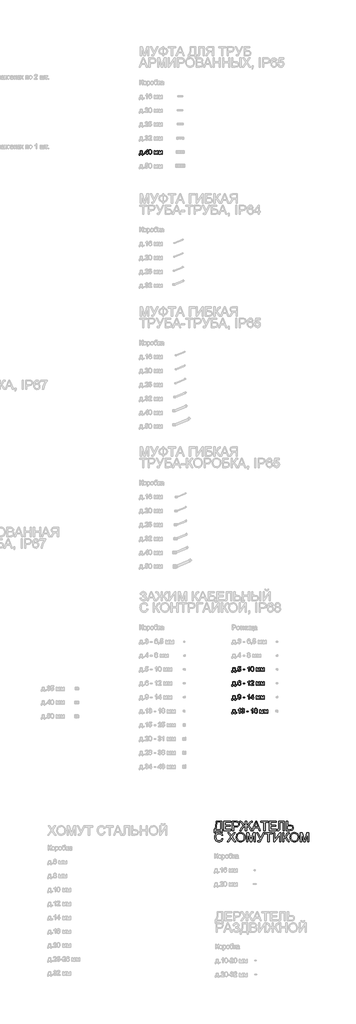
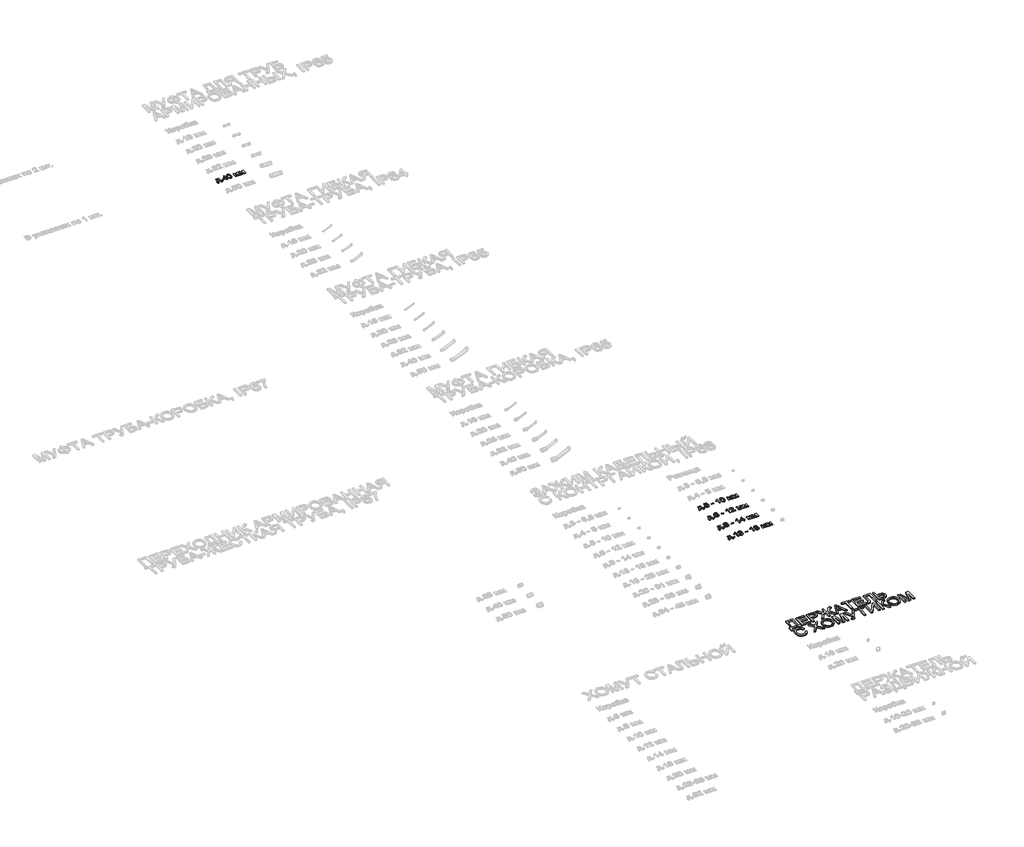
# One storey, part 79 of 98: 6 proxies.
"""IFC4 building model written with IfcOpenShell, lengths in millimetres."""

from ifc_helpers import new_model, si_unit, origin, origin_with_axes, place, context, project, spatial, polyline, outline, extrude, element, save

model = new_model("IFC4")

# Units and contexts
model_context = context("Model", 3, world=origin())
ifc_project = project(units=[si_unit("LENGTHUNIT", "METRE", prefix="MILLI")], contexts=[model_context])

# Site, building, storey
site = spatial("IfcSite", under=ifc_project)
building = spatial("IfcBuilding", under=site)
storey = spatial("IfcBuildingStorey", under=building, Name="Этаж 01", Elevation=0.0)

# Proxies
placement = place(None, origin())
element("IfcBuildingElementProxy", 1, Name="100", ObjectType="100", at=placement, inside=storey, context=model_context, shape_type="SweptSolid", body=[
    extrude(outline(polyline([(14428.905254, -16885.7395637), (14475.9941494, -16885.7395637), (14475.9941494, -16946.9551277), (14485.4119285, -16946.9551277), (14485.4119285, -16979.9173545), (14472.8548897, -16979.9173545), (14472.8548897, -16959.5121665), (14421.0571048, -16959.5121665), (14421.0571048, -16979.9173545), (14408.500066, -16979.9173545), (14408.500066, -16946.9551277), (14416.3482152, -16946.9551277), (14426.0480372, -16923.0060098), (14428.905254, -16885.7395637)]), holes=[polyline([(14439.8926629, -16898.2966025), (14436.949607, -16926.905559), (14430.4748839, -16946.9551277), (14463.4371106, -16946.9551277), (14463.4371106, -16898.2966025), (14439.8926629, -16898.2966025)])]), origin_with_axes(), (0.0, 0.0, 1.0), 10.0),
    extrude(outline(polyline([(14502.6778568, -16959.5121665), (14502.6778568, -16946.9551277), (14515.2348955, -16946.9551277), (14515.2348955, -16959.5121665), (14502.6778568, -16959.5121665)])), origin_with_axes(), (0.0, 0.0, 1.0), 10.0),
    extrude(outline(polyline([(14576.4504595, -16959.5121665), (14576.4504595, -16935.9677188), (14530.931194, -16935.9677188), (14530.931194, -16923.41068), (14579.5897192, -16860.6254862), (14589.0074983, -16860.6254862), (14589.0074983, -16923.41068), (14601.5645371, -16923.41068), (14601.5645371, -16935.9677188), (14589.0074983, -16935.9677188), (14589.0074983, -16959.5121665), (14576.4504595, -16959.5121665)]), holes=[polyline([(14576.4504595, -16923.41068), (14576.4504595, -16884.6113922), (14546.3822378, -16923.41068), (14576.4504595, -16923.41068)])]), origin_with_axes(), (0.0, 0.0, 1.0), 10.0),
    extrude(outline(polyline([(14612.551946, -16910.0933518), (14616.2430287, -16881.1900897), (14627.2059121, -16864.5250353), (14645.5141728, -16859.0558563), (14660.1804016, -16862.2932179), (14670.3094192, -16871.6251578), (14676.1955312, -16886.4875904), (14678.4763995, -16910.0933518), (14674.8221051, -16938.8739865), (14663.8960098, -16955.5758291), (14655.6646502, -16959.7053045), (14645.5141728, -16961.0817963), (14632.4666247, -16958.6905633), (14622.5583363, -16951.5168644), (14615.0535436, -16934.5268476), (14612.551946, -16910.0933518)]), holes=[polyline([(14625.1089848, -16910.0688263), (14626.5805128, -16929.8210238), (14630.9950967, -16941.2529568), (14637.5679217, -16946.7068073), (14645.5141728, -16948.5247575), (14653.4604239, -16946.700676), (14660.0332488, -16941.2284313), (14664.4478328, -16929.7903669), (14665.9193608, -16910.0688263), (14664.4968837, -16890.7611529), (14660.2294526, -16879.2403151), (14653.6688903, -16873.5197501), (14645.36702, -16871.6128951), (14637.506608, -16873.2928895), (14631.1913004, -16878.3328729), (14626.6295637, -16890.5710806), (14625.1089848, -16910.0688263)])]), origin_with_axes(), (0.0, 0.0, 1.0), 10.0),
    extrude(outline(polyline([(14731.8438143, -16885.7395637), (14753.4507502, -16885.7395637), (14770.1035418, -16944.7968867), (14788.0561832, -16885.7395637), (14808.7556768, -16885.7395637), (14808.7556768, -16959.5121665), (14796.198638, -16959.5121665), (14796.198638, -16900.111487), (14778.1478948, -16959.5121665), (14761.6667814, -16959.5121665), (14744.4008531, -16897.2665329), (14744.4008531, -16959.5121665), (14731.8438143, -16959.5121665), (14731.8438143, -16885.7395637)])), origin_with_axes(), (0.0, 0.0, 1.0), 10.0),
    extrude(outline(polyline([(14827.5912349, -16885.7395637), (14849.1981708, -16885.7395637), (14865.8509624, -16944.7968867), (14883.8036038, -16885.7395637), (14904.5030974, -16885.7395637), (14904.5030974, -16959.5121665), (14891.9460586, -16959.5121665), (14891.9460586, -16900.111487), (14873.8953154, -16959.5121665), (14857.414202, -16959.5121665), (14840.1482737, -16897.2665329), (14840.1482737, -16959.5121665), (14827.5912349, -16959.5121665), (14827.5912349, -16885.7395637)])), origin_with_axes(), (0.0, 0.0, 1.0), 10.0),
])
element("IfcBuildingElementProxy", 2, Name="100", ObjectType="100", at=placement, inside=storey, context=model_context, shape_type="SweptSolid", body=[
    extrude(outline(polyline([(16431.7338321, -28049.6891994), (16478.8227275, -28049.6891994), (16478.8227275, -28110.9047634), (16488.2405066, -28110.9047634), (16488.2405066, -28143.8669901), (16475.6834678, -28143.8669901), (16475.6834678, -28123.4618021), (16423.8856829, -28123.4618021), (16423.8856829, -28143.8669901), (16411.3286441, -28143.8669901), (16411.3286441, -28110.9047634), (16419.1767934, -28110.9047634), (16428.8766153, -28086.9556455), (16431.7338321, -28049.6891994)]), holes=[polyline([(16442.721241, -28062.2462382), (16439.7781851, -28090.8551946), (16433.303462, -28110.9047634), (16466.2656887, -28110.9047634), (16466.2656887, -28062.2462382), (16442.721241, -28062.2462382)])]), origin_with_axes(), (0.0, 0.0, 1.0), 10.0),
    extrude(outline(polyline([(16505.5064349, -28123.4618021), (16505.5064349, -28110.9047634), (16518.0634737, -28110.9047634), (16518.0634737, -28123.4618021), (16505.5064349, -28123.4618021)])), origin_with_axes(), (0.0, 0.0, 1.0), 10.0),
    extrude(outline(polyline([(16538.4686617, -28096.7780948), (16551.0257004, -28095.2084649), (16557.3532707, -28108.1456484), (16570.4743952, -28112.4743932), (16579.4752414, -28110.9691427), (16586.2197446, -28106.4533912), (16590.4319935, -28099.4483049), (16591.8360764, -28090.4750499), (16586.5753639, -28075.5635664), (16579.9688164, -28071.4616821), (16570.670599, -28070.0943874), (16559.6464018, -28072.2771539), (16552.5953303, -28077.9425366), (16540.0382915, -28076.3729068), (16551.0257004, -28024.5751218), (16599.6842257, -28024.5751218), (16599.6842257, -28037.1321606), (16561.1792435, -28037.1321606), (16555.8081664, -28064.7968867), (16564.7783557, -28059.3522331), (16574.1777407, -28057.5373486), (16585.9101106, -28059.7875602), (16595.6497864, -28066.5381948), (16602.207283, -28076.8266279), (16604.3931152, -28089.690235), (16602.4249465, -28102.2472738), (16596.5204405, -28112.989428), (16585.2142005, -28122.020931), (16570.4253443, -28125.031432), (16558.0921004, -28123.0969858), (16548.2665855, -28117.2936474), (16541.5312793, -28108.2958669), (16538.4686617, -28096.7780948)])), origin_with_axes(), (0.0, 0.0, 1.0), 10.0),
    extrude(outline(polyline([(16651.4820106, -28093.6388351), (16651.4820106, -28081.0817963), (16690.7227567, -28081.0817963), (16690.7227567, -28093.6388351), (16651.4820106, -28093.6388351)])), origin_with_axes(), (0.0, 0.0, 1.0), 10.0),
    extrude(outline(polyline([(16788.0398072, -28123.4618021), (16775.4827684, -28123.4618021), (16775.4827684, -28045.1765136), (16763.5879172, -28053.6500622), (16750.3686909, -28059.9898952), (16750.3686909, -28048.1195695), (16768.7750534, -28036.3718712), (16779.9464033, -28023.005492), (16788.0398072, -28023.005492), (16788.0398072, -28123.4618021)])), origin_with_axes(), (0.0, 0.0, 1.0), 10.0),
    extrude(outline(polyline([(16817.8627743, -28074.0429875), (16821.5538569, -28045.1397254), (16832.5167404, -28028.474671), (16850.825001, -28023.005492), (16865.4912299, -28026.2428536), (16875.6202475, -28035.5747935), (16881.5063594, -28050.4372261), (16883.7872278, -28074.0429875), (16880.1329333, -28102.8236222), (16869.2068381, -28119.5254648), (16860.9754784, -28123.6549402), (16850.825001, -28125.031432), (16837.7774529, -28122.640199), (16827.8691645, -28115.4665001), (16820.3643718, -28098.4764833), (16817.8627743, -28074.0429875)]), holes=[polyline([(16830.419813, -28074.018462), (16831.891341, -28093.7706595), (16836.305925, -28105.2025925), (16842.8787499, -28110.656443), (16850.825001, -28112.4743932), (16858.7712521, -28110.6503117), (16865.3440771, -28105.178067), (16869.758661, -28093.7400026), (16871.230189, -28074.018462), (16869.807712, -28054.7107886), (16865.5402808, -28043.1899508), (16858.9797186, -28037.4693858), (16850.6778482, -28035.5625308), (16842.8174363, -28037.2425252), (16836.5021287, -28042.2825085), (16831.9403919, -28054.5207163), (16830.419813, -28074.018462)])]), origin_with_axes(), (0.0, 0.0, 1.0), 10.0),
    extrude(outline(polyline([(16937.1546426, -28049.6891994), (16958.7615784, -28049.6891994), (16975.4143701, -28108.7465223), (16993.3670114, -28049.6891994), (17014.066505, -28049.6891994), (17014.066505, -28123.4618021), (17001.5094663, -28123.4618021), (17001.5094663, -28064.0611227), (16983.458723, -28123.4618021), (16966.9776096, -28123.4618021), (16949.7116813, -28061.2161686), (16949.7116813, -28123.4618021), (16937.1546426, -28123.4618021), (16937.1546426, -28049.6891994)])), origin_with_axes(), (0.0, 0.0, 1.0), 10.0),
    extrude(outline(polyline([(17032.9020632, -28049.6891994), (17054.508999, -28049.6891994), (17071.1617907, -28108.7465223), (17089.114432, -28049.6891994), (17109.8139256, -28049.6891994), (17109.8139256, -28123.4618021), (17097.2568869, -28123.4618021), (17097.2568869, -28064.0611227), (17079.2061436, -28123.4618021), (17062.7250303, -28123.4618021), (17045.4591019, -28061.2161686), (17045.4591019, -28123.4618021), (17032.9020632, -28123.4618021), (17032.9020632, -28049.6891994)])), origin_with_axes(), (0.0, 0.0, 1.0), 10.0),
])
element("IfcBuildingElementProxy", 3, Name="100", ObjectType="100", at=placement, inside=storey, context=model_context, shape_type="SweptSolid", body=[
    extrude(outline(polyline([(16431.7338321, -28649.6891994), (16478.8227275, -28649.6891994), (16478.8227275, -28710.9047634), (16488.2405066, -28710.9047634), (16488.2405066, -28743.8669901), (16475.6834678, -28743.8669901), (16475.6834678, -28723.4618021), (16423.8856829, -28723.4618021), (16423.8856829, -28743.8669901), (16411.3286441, -28743.8669901), (16411.3286441, -28710.9047634), (16419.1767934, -28710.9047634), (16428.8766153, -28686.9556455), (16431.7338321, -28649.6891994)]), holes=[polyline([(16442.721241, -28662.2462382), (16439.7781851, -28690.8551946), (16433.303462, -28710.9047634), (16466.2656887, -28710.9047634), (16466.2656887, -28662.2462382), (16442.721241, -28662.2462382)])]), origin_with_axes(), (0.0, 0.0, 1.0), 10.0),
    extrude(outline(polyline([(16505.5064349, -28723.4618021), (16505.5064349, -28710.9047634), (16518.0634737, -28710.9047634), (16518.0634737, -28723.4618021), (16505.5064349, -28723.4618021)])), origin_with_axes(), (0.0, 0.0, 1.0), 10.0),
    extrude(outline(polyline([(16540.0382915, -28698.3477246), (16552.5953303, -28696.7780948), (16558.2361875, -28708.7587851), (16568.9292909, -28712.4743932), (16579.0950967, -28710.0831603), (16585.9867527, -28703.6942763), (16590.0947683, -28692.7804438), (16591.9096528, -28678.2123167), (16591.8360764, -28675.7597701), (16581.792898, -28685.275651), (16568.0218486, -28688.9299455), (16556.5715215, -28686.6981281), (16547.0403121, -28680.0026758), (16540.6115743, -28669.6590604), (16538.4686617, -28656.4827536), (16540.7158075, -28642.8711197), (16547.4572451, -28632.2025419), (16557.583197, -28625.3047545), (16569.9838859, -28623.005492), (16587.8752136, -28628.2539418), (16600.1869977, -28643.2144763), (16604.3931152, -28671.3206607), (16600.1992604, -28701.8180781), (16594.9845332, -28711.80914), (16587.7280608, -28719.0962691), (16578.7425431, -28723.5476413), (16568.3406797, -28725.031432), (16557.6046568, -28723.2809268), (16549.0391377, -28718.0294114), (16543.0487925, -28709.6079793), (16540.0382915, -28698.3477246)]), holes=[polyline([(16591.8360764, -28656.188448), (16590.4810444, -28647.6781111), (16586.4159484, -28641.1298116), (16580.1067721, -28636.954351), (16572.0194996, -28635.5625308), (16563.6317901, -28637.0616499), (16556.9118123, -28641.5590073), (16552.4972284, -28648.4414663), (16551.0257004, -28657.0958902), (16552.4175206, -28664.8551346), (16556.5929813, -28671.0140924), (16563.1474122, -28675.0332032), (16571.6761431, -28676.3729068), (16586.158431, -28671.0140924), (16590.4166651, -28664.6282741), (16591.8360764, -28656.188448)])]), origin_with_axes(), (0.0, 0.0, 1.0), 10.0),
    extrude(outline(polyline([(16651.4820106, -28693.6388351), (16651.4820106, -28681.0817963), (16690.7227567, -28681.0817963), (16690.7227567, -28693.6388351), (16651.4820106, -28693.6388351)])), origin_with_axes(), (0.0, 0.0, 1.0), 10.0),
    extrude(outline(polyline([(16788.0398072, -28723.4618021), (16775.4827684, -28723.4618021), (16775.4827684, -28645.1765136), (16763.5879172, -28653.6500622), (16750.3686909, -28659.9898952), (16750.3686909, -28648.1195695), (16768.7750534, -28636.3718712), (16779.9464033, -28623.005492), (16788.0398072, -28623.005492), (16788.0398072, -28723.4618021)])), origin_with_axes(), (0.0, 0.0, 1.0), 10.0),
    extrude(outline(polyline([(16858.6731503, -28723.4618021), (16858.6731503, -28699.9173545), (16813.1538847, -28699.9173545), (16813.1538847, -28687.3603157), (16861.81241, -28624.5751218), (16871.230189, -28624.5751218), (16871.230189, -28687.3603157), (16883.7872278, -28687.3603157), (16883.7872278, -28699.9173545), (16871.230189, -28699.9173545), (16871.230189, -28723.4618021), (16858.6731503, -28723.4618021)]), holes=[polyline([(16858.6731503, -28687.3603157), (16858.6731503, -28648.5610279), (16828.6049285, -28687.3603157), (16858.6731503, -28687.3603157)])]), origin_with_axes(), (0.0, 0.0, 1.0), 10.0),
    extrude(outline(polyline([(16937.1546426, -28649.6891994), (16958.7615784, -28649.6891994), (16975.4143701, -28708.7465223), (16993.3670114, -28649.6891994), (17014.066505, -28649.6891994), (17014.066505, -28723.4618021), (17001.5094663, -28723.4618021), (17001.5094663, -28664.0611227), (16983.458723, -28723.4618021), (16966.9776096, -28723.4618021), (16949.7116813, -28661.2161686), (16949.7116813, -28723.4618021), (16937.1546426, -28723.4618021), (16937.1546426, -28649.6891994)])), origin_with_axes(), (0.0, 0.0, 1.0), 10.0),
    extrude(outline(polyline([(17032.9020632, -28649.6891994), (17054.508999, -28649.6891994), (17071.1617907, -28708.7465223), (17089.114432, -28649.6891994), (17109.8139256, -28649.6891994), (17109.8139256, -28723.4618021), (17097.2568869, -28723.4618021), (17097.2568869, -28664.0611227), (17079.2061436, -28723.4618021), (17062.7250303, -28723.4618021), (17045.4591019, -28661.2161686), (17045.4591019, -28723.4618021), (17032.9020632, -28723.4618021), (17032.9020632, -28649.6891994)])), origin_with_axes(), (0.0, 0.0, 1.0), 10.0),
])
element("IfcBuildingElementProxy", 4, Name="100", ObjectType="100", at=placement, inside=storey, context=model_context, shape_type="SweptSolid", body=[
    extrude(outline(polyline([(16431.7338321, -28949.6891994), (16478.8227275, -28949.6891994), (16478.8227275, -29010.9047634), (16488.2405066, -29010.9047634), (16488.2405066, -29043.8669901), (16475.6834678, -29043.8669901), (16475.6834678, -29023.4618021), (16423.8856829, -29023.4618021), (16423.8856829, -29043.8669901), (16411.3286441, -29043.8669901), (16411.3286441, -29010.9047634), (16419.1767934, -29010.9047634), (16428.8766153, -28986.9556455), (16431.7338321, -28949.6891994)]), holes=[polyline([(16442.721241, -28962.2462382), (16439.7781851, -28990.8551946), (16433.303462, -29010.9047634), (16466.2656887, -29010.9047634), (16466.2656887, -28962.2462382), (16442.721241, -28962.2462382)])]), origin_with_axes(), (0.0, 0.0, 1.0), 10.0),
    extrude(outline(polyline([(16505.5064349, -29023.4618021), (16505.5064349, -29010.9047634), (16518.0634737, -29010.9047634), (16518.0634737, -29023.4618021), (16505.5064349, -29023.4618021)])), origin_with_axes(), (0.0, 0.0, 1.0), 10.0),
    extrude(outline(polyline([(16585.557557, -29023.4618021), (16573.0005183, -29023.4618021), (16573.0005183, -28945.1765136), (16561.1056671, -28953.6500622), (16547.8864407, -28959.9898952), (16547.8864407, -28948.1195695), (16566.2928032, -28936.3718712), (16577.4641531, -28923.005492), (16585.557557, -28923.005492), (16585.557557, -29023.4618021)])), origin_with_axes(), (0.0, 0.0, 1.0), 10.0),
    extrude(outline(polyline([(16615.3805241, -28996.7780948), (16627.9375629, -28995.2084649), (16634.8660071, -29008.4276913), (16647.8277161, -29012.4743932), (16656.4361548, -29011.082573), (16663.0825562, -29006.9071124), (16668.7479389, -28993.1238003), (16663.1316071, -28980.1375659), (16648.8577857, -28974.9994807), (16640.0531433, -28976.3729068), (16641.4510948, -28963.815868), (16643.4621831, -28963.9630208), (16657.711479, -28960.3577772), (16662.4571568, -28955.7837778), (16664.0390493, -28949.2722665), (16659.4527871, -28939.4498172), (16647.6315124, -28935.5625308), (16635.6630848, -28939.4866054), (16629.5071927, -28951.2588292), (16616.950154, -28949.6891994), (16620.647368, -28938.4136162), (16627.2263244, -28929.9952499), (16636.2271705, -28924.7529315), (16647.190054, -28923.005492), (16662.3345294, -28926.45132), (16672.9295309, -28935.8690991), (16676.5960881, -28948.5365025), (16673.1134719, -28960.1125226), (16662.812776, -28968.4266557), (16676.4979862, -28977.0105689), (16681.3049777, -28993.3445295), (16678.9014819, -29005.5827372), (16671.6909948, -29015.8098566), (16660.8078192, -29022.7260382), (16647.3862577, -29025.031432), (16635.2461519, -29023.0632633), (16625.3623889, -29017.1587573), (16618.489127, -29008.1272543), (16615.3805241, -28996.7780948)])), origin_with_axes(), (0.0, 0.0, 1.0), 10.0),
    extrude(outline(polyline([(16728.393873, -28993.6388351), (16728.393873, -28981.0817963), (16767.6346192, -28981.0817963), (16767.6346192, -28993.6388351), (16728.393873, -28993.6388351)])), origin_with_axes(), (0.0, 0.0, 1.0), 10.0),
    extrude(outline(polyline([(16864.9516696, -29023.4618021), (16852.3946309, -29023.4618021), (16852.3946309, -28945.1765136), (16840.4997797, -28953.6500622), (16827.2805533, -28959.9898952), (16827.2805533, -28948.1195695), (16845.6869158, -28936.3718712), (16856.8582657, -28923.005492), (16864.9516696, -28923.005492), (16864.9516696, -29023.4618021)])), origin_with_axes(), (0.0, 0.0, 1.0), 10.0),
    extrude(outline(polyline([(16913.0706346, -28968.1323501), (16901.6295046, -28960.3332518), (16897.9138964, -28948.1931459), (16899.9372474, -28938.376828), (16906.0073003, -28930.26503), (16915.4434735, -28924.8203765), (16927.5651852, -28923.005492), (16939.7604734, -28924.8632961), (16949.3192739, -28930.4367083), (16955.4996914, -28938.677265), (16957.5598306, -28948.5365025), (16953.8932733, -28960.37004), (16942.7709744, -28968.1323501), (16956.1250908, -28977.9793248), (16960.6990903, -28994.2274463), (16958.4304846, -29006.232662), (16951.6246677, -29016.1532132), (16941.1155054, -29022.8118773), (16927.7368635, -29025.031432), (16914.3582216, -29022.8026802), (16903.8490593, -29016.116425), (16897.0432424, -29006.1008377), (16894.7746367, -28993.8840897), (16899.5325772, -28977.2558236), (16913.0706346, -28968.1323501)]), holes=[polyline([(16910.4709352, -28948.5610279), (16914.9223073, -28958.4202654), (16927.8840163, -28962.2462382), (16940.5882079, -28958.4447909), (16945.0027918, -28949.1251137), (16940.4410551, -28939.4743427), (16927.7368635, -28935.5625308), (16914.9958837, -28939.3885035), (16910.4709352, -28948.5610279)]), polyline([(16907.3316755, -28993.4426313), (16909.4286029, -29002.8971986), (16916.8475564, -29009.9727957), (16927.8349654, -29012.4743932), (16936.3820904, -29011.1592151), (16942.7954998, -29007.2136807), (16948.1420515, -28993.8350388), (16942.6238216, -28980.1988795), (16936.0632593, -28976.1521776), (16927.4180324, -28974.8032769), (16918.9904691, -28976.1337835), (16912.641439, -28980.1253031), (16907.3316755, -28993.4426313)])]), origin_with_axes(), (0.0, 0.0, 1.0), 10.0),
    extrude(outline(polyline([(17014.066505, -28949.6891994), (17035.6734409, -28949.6891994), (17052.3262325, -29008.7465223), (17070.2788739, -28949.6891994), (17090.9783675, -28949.6891994), (17090.9783675, -29023.4618021), (17078.4213287, -29023.4618021), (17078.4213287, -28964.0611227), (17060.3705855, -29023.4618021), (17043.8894721, -29023.4618021), (17026.6235438, -28961.2161686), (17026.6235438, -29023.4618021), (17014.066505, -29023.4618021), (17014.066505, -28949.6891994)])), origin_with_axes(), (0.0, 0.0, 1.0), 10.0),
    extrude(outline(polyline([(17109.8139256, -28949.6891994), (17131.4208615, -28949.6891994), (17148.0736531, -29008.7465223), (17166.0262945, -28949.6891994), (17186.7257881, -28949.6891994), (17186.7257881, -29023.4618021), (17174.1687493, -29023.4618021), (17174.1687493, -28964.0611227), (17156.1180061, -29023.4618021), (17139.6368927, -29023.4618021), (17122.3709644, -28961.2161686), (17122.3709644, -29023.4618021), (17109.8139256, -29023.4618021), (17109.8139256, -28949.6891994)])), origin_with_axes(), (0.0, 0.0, 1.0), 10.0),
])
element("IfcBuildingElementProxy", 5, Name="100", ObjectType="100", at=placement, inside=storey, context=model_context, shape_type="SweptSolid", body=[
    extrude(outline(polyline([(16431.7338321, -28349.6891994), (16478.8227275, -28349.6891994), (16478.8227275, -28410.9047634), (16488.2405066, -28410.9047634), (16488.2405066, -28443.8669901), (16475.6834678, -28443.8669901), (16475.6834678, -28423.4618021), (16423.8856829, -28423.4618021), (16423.8856829, -28443.8669901), (16411.3286441, -28443.8669901), (16411.3286441, -28410.9047634), (16419.1767934, -28410.9047634), (16428.8766153, -28386.9556455), (16431.7338321, -28349.6891994)]), holes=[polyline([(16442.721241, -28362.2462382), (16439.7781851, -28390.8551946), (16433.303462, -28410.9047634), (16466.2656887, -28410.9047634), (16466.2656887, -28362.2462382), (16442.721241, -28362.2462382)])]), origin_with_axes(), (0.0, 0.0, 1.0), 10.0),
    extrude(outline(polyline([(16505.5064349, -28423.4618021), (16505.5064349, -28410.9047634), (16518.0634737, -28410.9047634), (16518.0634737, -28423.4618021), (16505.5064349, -28423.4618021)])), origin_with_axes(), (0.0, 0.0, 1.0), 10.0),
    extrude(outline(polyline([(16602.8234853, -28349.6891994), (16590.2664466, -28351.2588292), (16585.5085061, -28340.7864551), (16572.9269419, -28335.5625308), (16561.5961764, -28338.6036886), (16553.0245259, -28350.0202932), (16549.4560706, -28372.3997812), (16560.5293186, -28362.3811282), (16574.2513171, -28359.1069785), (16585.8518626, -28361.3449273), (16595.5884728, -28368.0587737), (16602.1919546, -28378.31655), (16604.3931152, -28391.1862884), (16600.2483114, -28408.5135304), (16588.8439695, -28420.7762636), (16572.3873816, -28425.031432), (16558.1411513, -28422.2110034), (16546.7950575, -28413.7497175), (16539.3730382, -28398.8137085), (16536.8990318, -28376.5691105), (16539.645884, -28351.5592662), (16547.8864407, -28334.4588848), (16559.1374984, -28325.8688402), (16573.7117568, -28323.005492), (16584.7298226, -28324.7774569), (16593.5528591, -28330.0933518), (16599.7332766, -28338.5362436), (16602.8234853, -28349.6891994)]), holes=[polyline([(16549.4560706, -28390.9900847), (16552.3623383, -28401.867129), (16560.0878602, -28409.7643292), (16571.406363, -28412.4743932), (16579.6929049, -28411.0703103), (16586.2074819, -28406.8580614), (16590.4289278, -28400.2361855), (16591.8360764, -28391.6032214), (16590.4473219, -28383.3166794), (16586.2810583, -28376.9983062), (16579.6561167, -28372.9975895), (16570.8913282, -28371.6640172), (16555.6978018, -28376.9983062), (16551.0165034, -28383.1633953), (16549.4560706, -28390.9900847)])]), origin_with_axes(), (0.0, 0.0, 1.0), 10.0),
    extrude(outline(polyline([(16651.4820106, -28393.6388351), (16651.4820106, -28381.0817963), (16690.7227567, -28381.0817963), (16690.7227567, -28393.6388351), (16651.4820106, -28393.6388351)])), origin_with_axes(), (0.0, 0.0, 1.0), 10.0),
    extrude(outline(polyline([(16788.0398072, -28423.4618021), (16775.4827684, -28423.4618021), (16775.4827684, -28345.1765136), (16763.5879172, -28353.6500622), (16750.3686909, -28359.9898952), (16750.3686909, -28348.1195695), (16768.7750534, -28336.3718712), (16779.9464033, -28323.005492), (16788.0398072, -28323.005492), (16788.0398072, -28423.4618021)])), origin_with_axes(), (0.0, 0.0, 1.0), 10.0),
    extrude(outline(polyline([(16882.217598, -28410.9047634), (16882.217598, -28423.4618021), (16816.2931444, -28423.4618021), (16817.6420451, -28414.8043125), (16825.2694651, -28401.4747216), (16840.990289, -28386.9188573), (16862.6708013, -28365.9986345), (16868.0909293, -28351.773864), (16862.9773696, -28340.2591576), (16849.6232532, -28335.5625308), (16835.705051, -28340.148793), (16830.419813, -28352.8284591), (16817.8627743, -28351.2588292), (16820.9069978, -28339.112592), (16827.4890198, -28330.2405046), (16837.2654838, -28324.8142451), (16849.8930333, -28323.005492), (16862.6125533, -28325.0165802), (16872.3706232, -28331.049845), (16878.5786319, -28340.0629538), (16880.6479681, -28351.0135746), (16878.4161507, -28362.9206885), (16870.9971971, -28375.2324726), (16853.0077675, -28392.4370872), (16838.5622679, -28404.5158794), (16832.8968851, -28410.9047634), (16882.217598, -28410.9047634)])), origin_with_axes(), (0.0, 0.0, 1.0), 10.0),
    extrude(outline(polyline([(16937.1546426, -28349.6891994), (16958.7615784, -28349.6891994), (16975.4143701, -28408.7465223), (16993.3670114, -28349.6891994), (17014.066505, -28349.6891994), (17014.066505, -28423.4618021), (17001.5094663, -28423.4618021), (17001.5094663, -28364.0611227), (16983.458723, -28423.4618021), (16966.9776096, -28423.4618021), (16949.7116813, -28361.2161686), (16949.7116813, -28423.4618021), (16937.1546426, -28423.4618021), (16937.1546426, -28349.6891994)])), origin_with_axes(), (0.0, 0.0, 1.0), 10.0),
    extrude(outline(polyline([(17032.9020632, -28349.6891994), (17054.508999, -28349.6891994), (17071.1617907, -28408.7465223), (17089.114432, -28349.6891994), (17109.8139256, -28349.6891994), (17109.8139256, -28423.4618021), (17097.2568869, -28423.4618021), (17097.2568869, -28364.0611227), (17079.2061436, -28423.4618021), (17062.7250303, -28423.4618021), (17045.4591019, -28361.2161686), (17045.4591019, -28423.4618021), (17032.9020632, -28423.4618021), (17032.9020632, -28349.6891994)])), origin_with_axes(), (0.0, 0.0, 1.0), 10.0),
])
element("IfcBuildingElementProxy", 6, Name="200", ObjectType="200", at=placement, inside=storey, context=model_context, shape_type="SweptSolid", body=[
    extrude(outline(polyline([(16067.661062, -31359.8176638), (16186.9529303, -31359.8176638), (16186.9529303, -31535.6162065), (16205.7884884, -31535.6162065), (16205.7884884, -31607.8191794), (16180.6744109, -31607.8191794), (16180.6744109, -31560.7302841), (16051.9647635, -31560.7302841), (16051.9647635, -31607.8191794), (16026.850686, -31607.8191794), (16026.850686, -31535.6162065), (16042.5469844, -31535.6162065), (16053.5343934, -31512.835114), (16061.3825426, -31480.7895265), (16066.0914321, -31439.4794441), (16067.661062, -31388.9048668), (16067.661062, -31359.8176638)]), holes=[polyline([(16161.8388527, -31384.9317413), (16092.7751395, -31384.9317413), (16092.7751395, -31395.0362334), (16087.6738425, -31463.854692), (16080.1199989, -31503.6227357), (16067.661062, -31535.6162065), (16161.8388527, -31535.6162065), (16161.8388527, -31384.9317413)])]), origin_with_axes(), (0.0, 0.0, 1.0), 20.0),
    extrude(outline(polyline([(16237.1810854, -31560.7302841), (16237.1810854, -31359.8176638), (16381.5870312, -31359.8176638), (16381.5870312, -31384.9317413), (16262.2951629, -31384.9317413), (16262.2951629, -31444.5776754), (16375.3085118, -31444.5776754), (16375.3085118, -31469.691753), (16262.2951629, -31469.691753), (16262.2951629, -31535.6162065), (16384.7262909, -31535.6162065), (16384.7262909, -31560.7302841), (16237.1810854, -31560.7302841)])), origin_with_axes(), (0.0, 0.0, 1.0), 20.0),
    extrude(outline(polyline([(16422.3974072, -31560.7302841), (16422.3974072, -31359.8176638), (16496.856723, -31359.8176638), (16526.8758938, -31361.7306501), (16551.2787328, -31371.1239037), (16560.1508203, -31379.4502996), (16567.0976586, -31390.5480731), (16571.585819, -31403.6385407), (16573.0818724, -31417.943019), (16569.0413018, -31441.6223567), (16556.9195901, -31461.3530944), (16547.212104, -31469.1215359), (16534.2519278, -31474.6704226), (16498.5735057, -31479.1095321), (16447.5114847, -31479.1095321), (16447.5114847, -31560.7302841), (16422.3974072, -31560.7302841)]), holes=[polyline([(16447.5114847, -31453.9954545), (16500.0450336, -31453.9954545), (16522.3141571, -31451.6900607), (16537.0294369, -31444.7738792), (16545.2332054, -31433.6761057), (16547.9677949, -31418.8259358), (16546.3552455, -31407.5442213), (16541.5175972, -31398.0283403), (16534.0557241, -31390.8669041), (16524.5705, -31386.6485239), (16499.4564225, -31384.9317413), (16447.5114847, -31384.9317413), (16447.5114847, -31453.9954545)])]), origin_with_axes(), (0.0, 0.0, 1.0), 20.0),
    extrude(outline(polyline([(16726.9055973, -31359.8176638), (16726.9055973, -31447.7169351), (16745.2751716, -31446.024678), (16756.8266663, -31440.9479064), (16765.8643006, -31429.200208), (16776.692294, -31407.4951703), (16790.9170645, -31379.4135114), (16806.8340922, -31365.458521), (16829.4710976, -31359.8176638), (16846.1974656, -31360.1119693), (16846.1974656, -31384.9317413), (16840.7037612, -31384.7845885), (16835.0629039, -31384.6374357), (16823.3274683, -31386.1702773), (16815.0991743, -31390.7688023), (16799.8933852, -31416.4224401), (16783.8292047, -31445.1417612), (16764.1352552, -31457.8214273), (16783.9886203, -31469.5446002), (16803.2288486, -31493.72671), (16846.1974656, -31560.7302841), (16817.0121607, -31560.7302841), (16780.5673177, -31503.8802531), (16755.4777656, -31474.9892537), (16743.2456893, -31468.6616834), (16726.9055973, -31466.5524933), (16726.9055973, -31560.7302841), (16701.7915198, -31560.7302841), (16701.7915198, -31466.5524933), (16688.0388645, -31468.1895682), (16676.0152547, -31473.1007928), (16663.9180684, -31483.4198828), (16649.9446839, -31501.2805536), (16648.1297994, -31503.8802531), (16611.6849564, -31560.7302841), (16582.4996515, -31560.7302841), (16625.4192176, -31493.72671), (16644.8801751, -31469.4710238), (16664.6109128, -31457.8214273), (16645.9715584, -31446.4661363), (16628.803732, -31416.4224401), (16613.1564844, -31390.229242), (16605.0753433, -31386.2561165), (16593.781366, -31384.9317413), (16582.4996515, -31385.2260469), (16582.4996515, -31360.1119693), (16598.3431028, -31359.8176638), (16621.8875504, -31365.3358937), (16637.5102725, -31379.1682567), (16652.0048231, -31407.5442213), (16662.8389479, -31429.4883823), (16671.7968745, -31441.0705338), (16683.3054495, -31445.9327075), (16701.7915198, -31447.7169351), (16701.7915198, -31359.8176638), (16726.9055973, -31359.8176638)])), origin_with_axes(), (0.0, 0.0, 1.0), 20.0),
    extrude(outline(polyline([(16841.6357289, -31560.7302841), (16921.8340038, -31359.8176638), (16943.2202105, -31359.8176638), (17023.4184854, -31560.7302841), (16996.8819309, -31560.7302841), (16973.8770434, -31497.9450902), (16891.12812, -31497.9450902), (16868.1722835, -31560.7302841), (16841.6357289, -31560.7302841)]), holes=[polyline([(16900.3496953, -31472.8310127), (16964.704519, -31472.8310127), (16946.6047249, -31423.4367235), (16932.5271072, -31384.9317413), (16920.0191193, -31419.1202414), (16900.3496953, -31472.8310127)])]), origin_with_axes(), (0.0, 0.0, 1.0), 20.0),
    extrude(outline(polyline([(17100.4775007, -31560.7302841), (17100.4775007, -31384.9317413), (17034.5530472, -31384.9317413), (17034.5530472, -31359.8176638), (17191.5160318, -31359.8176638), (17191.5160318, -31384.9317413), (17125.5915782, -31384.9317413), (17125.5915782, -31560.7302841), (17100.4775007, -31560.7302841)])), origin_with_axes(), (0.0, 0.0, 1.0), 20.0),
    extrude(outline(polyline([(17219.769369, -31560.7302841), (17219.769369, -31359.8176638), (17364.1753148, -31359.8176638), (17364.1753148, -31384.9317413), (17244.8834465, -31384.9317413), (17244.8834465, -31444.5776754), (17357.8967955, -31444.5776754), (17357.8967955, -31469.691753), (17244.8834465, -31469.691753), (17244.8834465, -31535.6162065), (17367.3145745, -31535.6162065), (17367.3145745, -31560.7302841), (17219.769369, -31560.7302841)])), origin_with_axes(), (0.0, 0.0, 1.0), 20.0),
    extrude(outline(polyline([(17420.6819893, -31359.8176638), (17543.1131173, -31359.8176638), (17543.1131173, -31560.7302841), (17517.9990398, -31560.7302841), (17517.9990398, -31384.9317413), (17445.7960668, -31384.9317413), (17445.7960668, -31487.4481906), (17442.8775364, -31533.1881853), (17438.3587192, -31546.1131061), (17430.6393286, -31555.8006653), (17420.0688526, -31561.8523241), (17406.9967791, -31563.8695437), (17386.1501327, -31560.7302841), (17389.2893924, -31535.6162065), (17401.3068709, -31538.7554662), (17409.7988136, -31537.0693404), (17415.8504724, -31532.010963), (17419.4741101, -31520.6985916), (17420.6819893, -31500.250484), (17420.6819893, -31359.8176638)])), origin_with_axes(), (0.0, 0.0, 1.0), 20.0),
    extrude(outline(polyline([(17587.062753, -31359.8176638), (17612.1768305, -31359.8176638), (17612.1768305, -31444.5776754), (17659.216675, -31444.5776754), (17687.5987709, -31446.5458441), (17706.918707, -31452.4503501), (17719.6228986, -31461.7455019), (17728.1577609, -31473.8856077), (17732.9954091, -31487.6505257), (17734.6079585, -31501.8201139), (17730.7329348, -31523.8685081), (17719.1078638, -31543.0228973), (17709.6900847, -31550.769879), (17696.9368422, -31556.3034374), (17661.423967, -31560.7302841), (17587.062753, -31560.7302841), (17587.062753, -31359.8176638)]), holes=[polyline([(17612.1768305, -31535.6162065), (17661.374916, -31535.6162065), (17686.1211116, -31533.133003), (17700.4194584, -31525.6833926), (17707.2252754, -31514.7266406), (17709.493881, -31501.722012), (17707.8506747, -31491.1883242), (17702.921056, -31482.3468936), (17695.2507164, -31475.7679373), (17685.3853476, -31472.0216723), (17648.2292661, -31469.691753), (17612.1768305, -31469.691753), (17612.1768305, -31535.6162065)])]), origin_with_axes(), (0.0, 0.0, 1.0), 20.0),
    extrude(outline(polyline([(16190.09219, -31733.2617617), (16215.2062675, -31739.7364849), (16203.6179847, -31769.0014976), (16185.4323514, -31790.3815729), (16161.5445471, -31803.4597778), (16132.8497515, -31807.8191794), (16103.7196289, -31804.5205042), (16080.5859827, -31794.6244785), (16062.8540706, -31778.474459), (16049.9291498, -31756.413802), (16042.038081, -31730.4781213), (16039.4077248, -31702.7030307), (16042.3814375, -31673.4073611), (16051.3025759, -31648.1093426), (16065.705156, -31627.6121841), (16085.123194, -31612.7190947), (16108.1526069, -31603.6508035), (16133.3893118, -31600.6280398), (16160.9252791, -31604.5398516), (16183.6910433, -31616.2752873), (16200.9753657, -31635.1108454), (16212.0670078, -31660.3230248), (16186.9529303, -31666.3072386), (16178.2463897, -31647.9928466), (16166.3515386, -31635.4296765), (16151.121224, -31628.1640071), (16132.4082931, -31625.7421173), (16110.8381455, -31628.4276559), (16093.118496, -31636.4842715), (16079.6724091, -31649.0658358), (16070.922949, -31665.32622), (16066.122089, -31683.708057), (16064.5218023, -31702.6539797), (16066.4163946, -31725.8550709), (16072.1001714, -31745.9169024), (16081.7877306, -31762.0730533), (16095.69367, -31773.5571029), (16112.3648558, -31780.4181022), (16130.348154, -31782.7051019), (16151.3112963, -31779.5903677), (16168.7795597, -31770.246165), (16181.9681292, -31754.7705957), (16190.09219, -31733.2617617)])), origin_with_axes(), (0.0, 0.0, 1.0), 20.0),
    extrude(outline(polyline([(16306.2447986, -31804.6799197), (16383.6962213, -31695.198238), (16318.8018374, -31603.7672994), (16348.91911, -31603.7672994), (16385.4620549, -31655.2217278), (16397.773839, -31675.2835593), (16412.1948132, -31654.8783713), (16448.3453506, -31603.7672994), (16478.9040817, -31603.7672994), (16414.0096977, -31695.4925436), (16491.4611204, -31804.6799197), (16461.3438478, -31804.6799197), (16409.7422666, -31731.8883356), (16399.0001123, -31716.7806484), (16387.1788375, -31733.3598636), (16336.8035297, -31804.6799197), (16306.2447986, -31804.6799197)])), origin_with_axes(), (0.0, 0.0, 1.0), 20.0),
    extrude(outline(polyline([(16504.0181592, -31706.87236), (16505.6920223, -31683.3064525), (16510.7136115, -31662.4444777), (16519.0829269, -31644.2864355), (16530.7999684, -31628.832326), (16545.1626947, -31616.4929508), (16561.4690641, -31607.6791113), (16579.7190768, -31602.3908076), (16599.9127326, -31600.6280398), (16626.2653462, -31603.9389777), (16649.895633, -31613.8717916), (16669.5160061, -31629.7275056), (16683.8388784, -31650.8071439), (16692.5944699, -31676.0928997), (16695.5130004, -31704.5669661), (16692.4411858, -31733.4211773), (16683.2257418, -31759.0625523), (16668.3755719, -31780.1789789), (16648.3995796, -31795.4583444), (16624.9716278, -31804.7289707), (16599.7655798, -31807.8191794), (16573.008296, -31804.4040082), (16549.2431191, -31794.1584947), (16529.671797, -31778.0084751), (16515.4960774, -31756.8797858), (16506.8876388, -31732.5689173), (16504.0181592, -31706.87236)]), holes=[polyline([(16529.1322367, -31707.1176146), (16534.153826, -31738.5469997), (16549.2185937, -31762.4961176), (16571.8617305, -31777.6528558), (16599.618427, -31782.7051019), (16627.7797937, -31777.6038049), (16650.4597187, -31762.2999139), (16659.1831206, -31751.0273964), (16665.4141218, -31737.615032), (16670.3989229, -31704.3707624), (16668.2652073, -31682.1384271), (16661.8640606, -31662.9227243), (16651.3610296, -31647.2080317), (16636.9216613, -31635.4787274), (16619.5024488, -31628.1762698), (16600.0598854, -31625.7421173), (16573.0450842, -31630.4326127), (16550.076985, -31644.504099), (16540.9136576, -31655.4531869), (16534.3684238, -31669.5384688), (16529.1322367, -31707.1176146)])]), origin_with_axes(), (0.0, 0.0, 1.0), 20.0),
    extrude(outline(polyline([(16730.044857, -31804.6799197), (16730.044857, -31603.7672994), (16773.2587287, -31603.7672994), (16814.3634103, -31745.3773421), (16822.6530179, -31774.9550545), (16831.6293386, -31742.9247955), (16872.0473072, -31603.7672994), (16915.2611789, -31603.7672994), (16915.2611789, -31804.6799197), (16890.1471013, -31804.6799197), (16890.1471013, -31628.881377), (16839.6736916, -31804.6799197), (16805.6323443, -31804.6799197), (16755.1589346, -31628.881377), (16755.1589346, -31804.6799197), (16730.044857, -31804.6799197)])), origin_with_axes(), (0.0, 0.0, 1.0), 20.0),
    extrude(outline(polyline([(16945.0841459, -31603.7672994), (16972.8960248, -31603.7672994), (17032.9834173, -31722.7648621), (17087.0375451, -31603.7672994), (17114.6041693, -31603.7672994), (17038.329969, -31760.2888257), (17017.5814245, -31798.7447569), (17007.7344497, -31805.5505738), (16994.3803333, -31807.8191794), (16971.7678533, -31804.6799197), (16971.7678533, -31782.7051019), (16991.5353792, -31782.7051019), (17006.2016081, -31777.1132956), (17019.7887164, -31751.6558615), (16945.0841459, -31603.7672994)])), origin_with_axes(), (0.0, 0.0, 1.0), 20.0),
    extrude(outline(polyline([(17188.3767721, -31804.6799197), (17188.3767721, -31628.881377), (17122.4523186, -31628.881377), (17122.4523186, -31603.7672994), (17279.4153032, -31603.7672994), (17279.4153032, -31628.881377), (17213.4908496, -31628.881377), (17213.4908496, -31804.6799197), (17188.3767721, -31804.6799197)])), origin_with_axes(), (0.0, 0.0, 1.0), 20.0),
    extrude(outline(polyline([(17307.6686404, -31603.7672994), (17332.7827179, -31603.7672994), (17332.7827179, -31762.8885251), (17437.9479176, -31603.7672994), (17464.631625, -31603.7672994), (17464.631625, -31804.6799197), (17439.5175475, -31804.6799197), (17439.5175475, -31646.0001525), (17334.5976024, -31804.6799197), (17307.6686404, -31804.6799197), (17307.6686404, -31603.7672994)])), origin_with_axes(), (0.0, 0.0, 1.0), 20.0),
    extrude(outline(polyline([(17508.5812607, -31603.7672994), (17533.6953382, -31603.7672994), (17533.6953382, -31691.6665708), (17550.6976178, -31690.0049705), (17561.7769972, -31685.0201694), (17570.7349238, -31673.2908652), (17581.3728448, -31651.3957551), (17595.2297333, -31623.3140961), (17610.9260317, -31609.4081567), (17633.3668335, -31603.7672994), (17649.8479468, -31604.061605), (17649.8479468, -31629.1756826), (17644.3051914, -31629.0285298), (17638.762436, -31628.881377), (17627.2599923, -31630.3896932), (17619.142063, -31634.9146417), (17604.2305794, -31660.7644832), (17586.4496163, -31692.255182), (17569.1101116, -31702.6539797), (17588.4974928, -31714.0092707), (17607.6150938, -31737.6763457), (17649.8479468, -31804.6799197), (17620.7116928, -31804.6799197), (17585.0026138, -31748.0751434), (17559.8640108, -31718.5219565), (17548.2573339, -31712.5070859), (17533.6953382, -31710.502129), (17533.6953382, -31804.6799197), (17508.5812607, -31804.6799197), (17508.5812607, -31603.7672994)])), origin_with_axes(), (0.0, 0.0, 1.0), 20.0),
    extrude(outline(polyline([(17662.4049856, -31706.87236), (17664.0788487, -31683.3064525), (17669.1004379, -31662.4444777), (17677.4697533, -31644.2864355), (17689.1867949, -31628.832326), (17703.5495211, -31616.4929508), (17719.8558905, -31607.6791113), (17738.1059032, -31602.3908076), (17758.299559, -31600.6280398), (17784.6521726, -31603.9389777), (17808.2824594, -31613.8717916), (17827.9028325, -31629.7275056), (17842.2257048, -31650.8071439), (17850.9812963, -31676.0928997), (17853.8998268, -31704.5669661), (17850.8280122, -31733.4211773), (17841.6125682, -31759.0625523), (17826.7623983, -31780.1789789), (17806.786406, -31795.4583444), (17783.3584543, -31804.7289707), (17758.1524062, -31807.8191794), (17731.3951224, -31804.4040082), (17707.6299455, -31794.1584947), (17688.0586234, -31778.0084751), (17673.8829039, -31756.8797858), (17665.2744652, -31732.5689173), (17662.4049856, -31706.87236)]), holes=[polyline([(17687.5190631, -31707.1176146), (17692.5406524, -31738.5469997), (17707.6054201, -31762.4961176), (17730.2485569, -31777.6528558), (17758.0052534, -31782.7051019), (17786.1666201, -31777.6038049), (17808.8465452, -31762.2999139), (17817.569947, -31751.0273964), (17823.8009483, -31737.615032), (17828.7857493, -31704.3707624), (17826.6520337, -31682.1384271), (17820.250887, -31662.9227243), (17809.747856, -31647.2080317), (17795.3084877, -31635.4787274), (17777.8892753, -31628.1762698), (17758.4467118, -31625.7421173), (17731.4319106, -31630.4326127), (17708.4638114, -31644.504099), (17699.300484, -31655.4531869), (17692.7552502, -31669.5384688), (17687.5190631, -31707.1176146)])]), origin_with_axes(), (0.0, 0.0, 1.0), 20.0),
    extrude(outline(polyline([(17888.4316834, -31804.6799197), (17888.4316834, -31603.7672994), (17931.6455551, -31603.7672994), (17972.7502367, -31745.3773421), (17981.0398444, -31774.9550545), (17990.016165, -31742.9247955), (18030.4341336, -31603.7672994), (18073.6480053, -31603.7672994), (18073.6480053, -31804.6799197), (18048.5339277, -31804.6799197), (18048.5339277, -31628.881377), (17998.060518, -31804.6799197), (17964.0191707, -31804.6799197), (17913.545761, -31628.881377), (17913.545761, -31804.6799197), (17888.4316834, -31804.6799197)])), origin_with_axes(), (0.0, 0.0, 1.0), 20.0),
])

save(model, "model.ifc")
